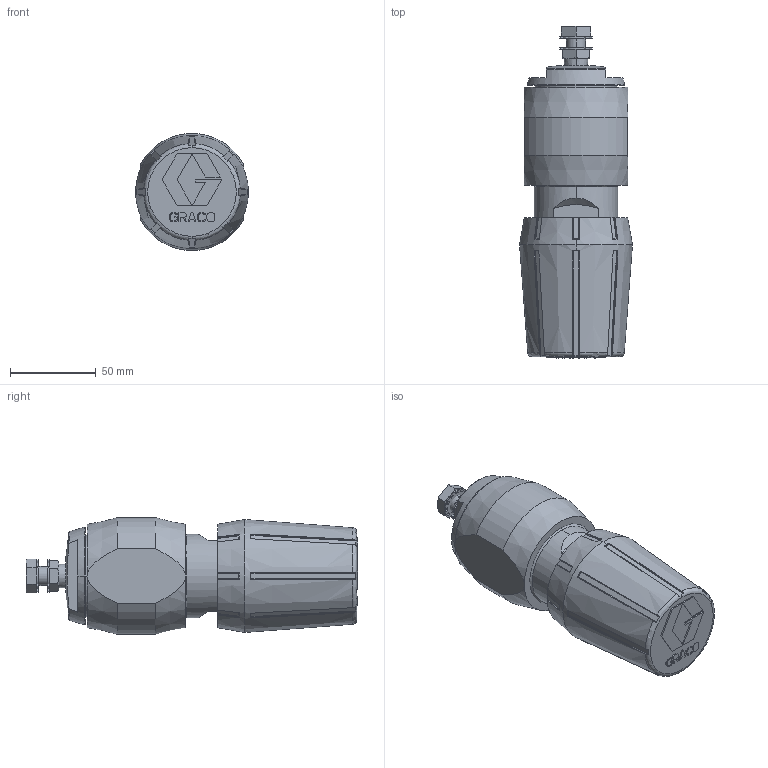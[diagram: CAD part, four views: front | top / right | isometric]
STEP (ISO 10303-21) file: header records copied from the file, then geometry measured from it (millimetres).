
FILE_DESCRIPTION((''),'2;1');
FILE_NAME('206661-EN-ZAD_PRT','2023-11-07T14:28:35',('qtmwp1'),(''),'CREO PARAMETRIC BY PTC INC, 2021072','CREO PARAMETRIC BY PTC INC, 2021072','');
FILE_SCHEMA(('CONFIG_CONTROL_DESIGN'));
Length unit declared in the file: inch
Products named in the file (1): 206661-EN-ZAD_PRT
Bounding box: 65.88 x 193.38 x 68.04 mm (x, y, z)
Surface area: 54943.5 mm2 (no closed solid volume)
Topology: 0 solids, 18 shells, 330 faces, 1110 edges, 767 vertices
Faces by surface type: plane 188, cylinder 106, cone 30, torus 6
Entity records: 12642 total; most frequent: CARTESIAN_POINT 3308, DIRECTION 1864, ORIENTED_EDGE 1846, EDGE_CURVE 1110, VERTEX_POINT 767, VECTOR 660, LINE 660, AXIS2_PLACEMENT_3D 602
